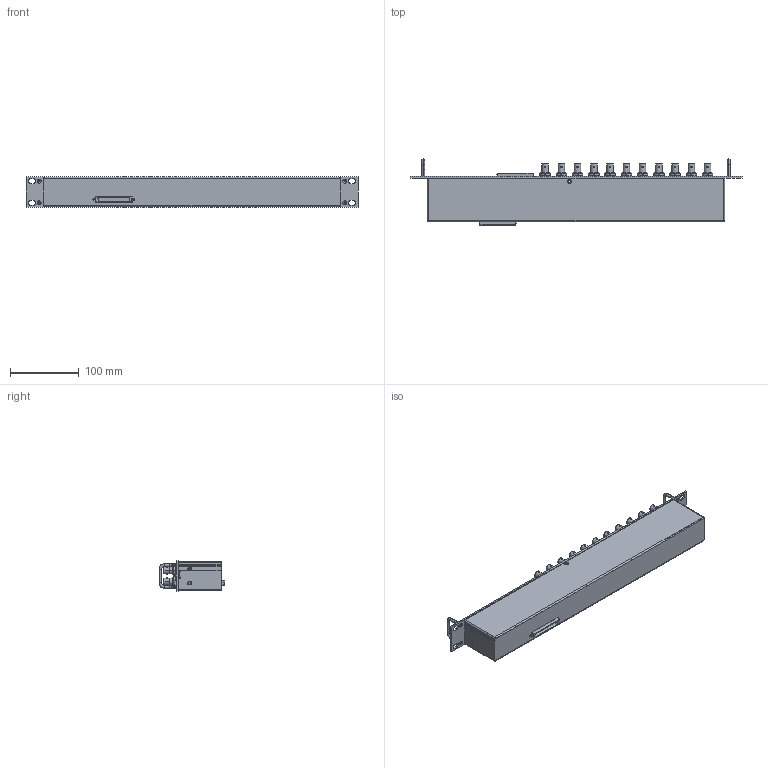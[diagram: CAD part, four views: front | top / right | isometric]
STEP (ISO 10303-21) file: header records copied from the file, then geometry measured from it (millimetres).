
FILE_DESCRIPTION((''),'2;1');
FILE_NAME('CD_BNC-2090A','2008-01-15T',('scarrasc'),(''),'PRO/ENGINEER BY PARAMETRIC TECHNOLOGY CORPORATION, 2006080','PRO/ENGINEER BY PARAMETRIC TECHNOLOGY CORPORATION, 2006080','');
FILE_SCHEMA(('CONFIG_CONTROL_DESIGN'));
Length unit declared in the file: inch
Products named in the file (1): CD_BNC-2090A
Bounding box: 482.6 x 95.92 x 43.94 mm (x, y, z)
Volume: 233559 mm3; surface area: 252606.8 mm2
Topology: 5 solids, 5 shells, 2176 faces, 5538 edges, 3596 vertices
Faces by surface type: plane 1356, cylinder 680, cone 132, torus 8
Entity records: 68404 total; most frequent: CARTESIAN_POINT 14346, DIRECTION 11284, ORIENTED_EDGE 11076, EDGE_CURVE 5538, AXIS2_PLACEMENT_3D 3806, VECTOR 3672, LINE 3672, VERTEX_POINT 3596
